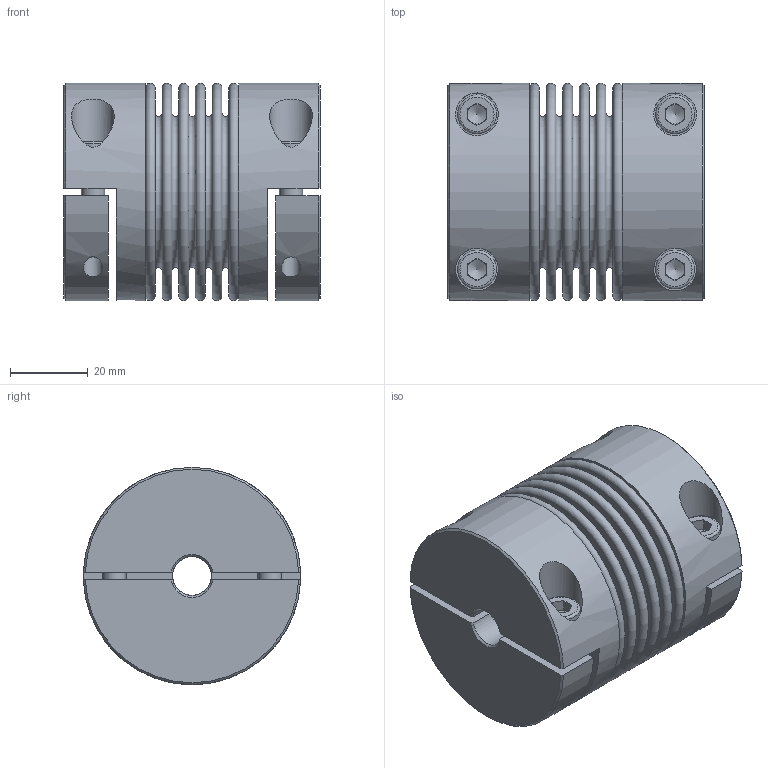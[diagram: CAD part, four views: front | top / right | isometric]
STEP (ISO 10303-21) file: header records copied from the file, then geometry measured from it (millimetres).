
FILE_DESCRIPTION( ( 'Unknown' ), '1' );
FILE_NAME( 'C:/Users/skarpstein/Desktop/KB4HC/KB4HC-30-66.stp', 'Unknown', ( 'Unknown' ), ( 'Unknown' ), 'PSStep 16.0.42', 'Unknown', ' ' );
FILE_SCHEMA( ( 'AUTOMOTIVE_DESIGN { 1 0 10303 214 1 1 1 1 }' ) );
Length unit declared in the file: millimetre
Products named in the file (5): Assem1; KN4HC-30; Socket Head Cap Screw_DIN_DIN 912 M6 x 20 --- 20N_3; BL30_Standard_0
Assembly tree (9 placements, depth 2):
  Assem1
    KN4HC-30  x2
    KN4HC-30  x2
    Socket Head Cap Screw_DIN_DIN 912 M6 x 20 --- 20N_3  x4
    BL30_Standard_0
Bounding box: 66.05 x 56 x 56 mm (x, y, z)
Volume: 97231.1 mm3; surface area: 65824.4 mm2
Topology: 9 solids, 9 shells, 188 faces, 387 edges, 247 vertices
Faces by surface type: plane 108, cylinder 32, torus 32, cone 16
Full cylindrical faces by diameter (mm): 4.917 x4, 6 x4, 6.4 x4, 10 x6, 11 x4, 46.5 x2, 47.3 x2, 56 x2
Entity records: 3546 total; most frequent: CARTESIAN_POINT 683, DIRECTION 438, ORIENTED_EDGE 282, AXIS2_PLACEMENT_3D 199, EDGE_LOOP 180, EDGE_CURVE 141, FACE_OUTER_BOUND 140, VERTEX_POINT 130
